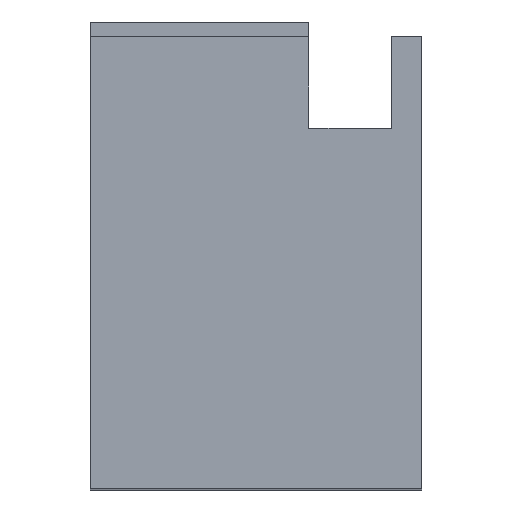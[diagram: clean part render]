
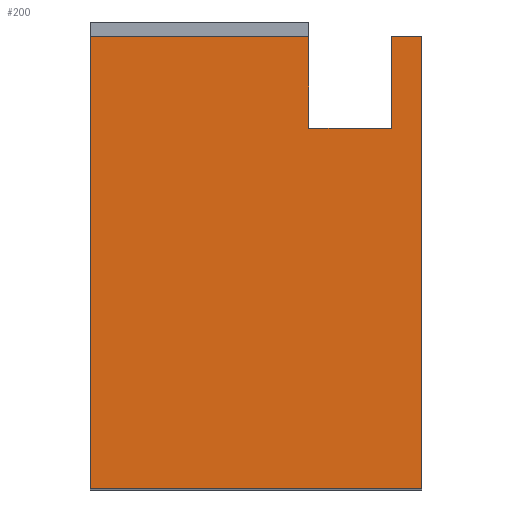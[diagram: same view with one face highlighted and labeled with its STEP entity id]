
A CAD part, top view. The second image highlights one B-rep face of the part: STEP entity #200.
In plain terms, the highlighted planar face has unit normal (0, 0, 1).
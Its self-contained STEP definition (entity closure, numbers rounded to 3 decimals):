
#141=AXIS2_PLACEMENT_3D('Plane Axis2P3D',#138,#139,#140) ;
#65=CARTESIAN_POINT('Vertex',(-13.,10.,45.5)) ;
#70=CARTESIAN_POINT('Line Origine',(-5.75,10.,45.5)) ;
#74=CARTESIAN_POINT('Vertex',(1.5,10.,45.5)) ;
#138=CARTESIAN_POINT('Axis2P3D Location',(0.,0.,45.5)) ;
#143=CARTESIAN_POINT('Line Origine',(4.25,3.9,45.5)) ;
#147=CARTESIAN_POINT('Vertex',(7.,3.9,45.5)) ;
#149=CARTESIAN_POINT('Vertex',(1.5,3.9,45.5)) ;
#152=CARTESIAN_POINT('Line Origine',(1.5,6.95,45.5)) ;
#157=CARTESIAN_POINT('Line Origine',(-13.,-5.,45.5)) ;
#161=CARTESIAN_POINT('Vertex',(-13.,-20.,45.5)) ;
#164=CARTESIAN_POINT('Line Origine',(-2.,-20.,45.5)) ;
#168=CARTESIAN_POINT('Vertex',(9.,-20.,45.5)) ;
#171=CARTESIAN_POINT('Line Origine',(9.,-5.,45.5)) ;
#175=CARTESIAN_POINT('Vertex',(9.,10.,45.5)) ;
#178=CARTESIAN_POINT('Line Origine',(8.,10.,45.5)) ;
#182=CARTESIAN_POINT('Vertex',(7.,10.,45.5)) ;
#185=CARTESIAN_POINT('Line Origine',(7.,6.95,45.5)) ;
#71=DIRECTION('Vector Direction',(1.,0.,0.)) ;
#139=DIRECTION('Axis2P3D Direction',(0.,0.,1.)) ;
#140=DIRECTION('Axis2P3D XDirection',(1.,0.,0.)) ;
#144=DIRECTION('Vector Direction',(-1.,0.,0.)) ;
#153=DIRECTION('Vector Direction',(0.,-1.,0.)) ;
#158=DIRECTION('Vector Direction',(0.,-1.,0.)) ;
#165=DIRECTION('Vector Direction',(-1.,0.,0.)) ;
#172=DIRECTION('Vector Direction',(0.,1.,0.)) ;
#179=DIRECTION('Vector Direction',(1.,0.,0.)) ;
#186=DIRECTION('Vector Direction',(0.,1.,0.)) ;
#72=VECTOR('Line Direction',#71,1.) ;
#145=VECTOR('Line Direction',#144,1.) ;
#154=VECTOR('Line Direction',#153,1.) ;
#159=VECTOR('Line Direction',#158,1.) ;
#166=VECTOR('Line Direction',#165,1.) ;
#173=VECTOR('Line Direction',#172,1.) ;
#180=VECTOR('Line Direction',#179,1.) ;
#187=VECTOR('Line Direction',#186,1.) ;
#191=ORIENTED_EDGE('',*,*,#151,.T.) ;
#192=ORIENTED_EDGE('',*,*,#156,.F.) ;
#193=ORIENTED_EDGE('',*,*,#76,.F.) ;
#194=ORIENTED_EDGE('',*,*,#163,.F.) ;
#195=ORIENTED_EDGE('',*,*,#170,.F.) ;
#196=ORIENTED_EDGE('',*,*,#177,.T.) ;
#197=ORIENTED_EDGE('',*,*,#184,.F.) ;
#198=ORIENTED_EDGE('',*,*,#189,.F.) ;
#200=ADVANCED_FACE('\X2\96F64EF651E04F554F53\X0\',(#199),#142,.T.) ;
#76=EDGE_CURVE('',#66,#75,#73,.T.) ;
#151=EDGE_CURVE('',#148,#150,#146,.T.) ;
#156=EDGE_CURVE('',#75,#150,#155,.T.) ;
#163=EDGE_CURVE('',#162,#66,#160,.F.) ;
#170=EDGE_CURVE('',#169,#162,#167,.T.) ;
#177=EDGE_CURVE('',#169,#176,#174,.T.) ;
#184=EDGE_CURVE('',#183,#176,#181,.T.) ;
#189=EDGE_CURVE('',#148,#183,#188,.T.) ;
#190=EDGE_LOOP('',(#191,#192,#193,#194,#195,#196,#197,#198)) ;
#199=FACE_OUTER_BOUND('',#190,.T.) ;
#73=LINE('Line',#70,#72) ;
#146=LINE('Line',#143,#145) ;
#155=LINE('Line',#152,#154) ;
#160=LINE('Line',#157,#159) ;
#167=LINE('Line',#164,#166) ;
#174=LINE('Line',#171,#173) ;
#181=LINE('Line',#178,#180) ;
#188=LINE('Line',#185,#187) ;
#142=PLANE('Plane',#141) ;
#66=VERTEX_POINT('',#65) ;
#75=VERTEX_POINT('',#74) ;
#148=VERTEX_POINT('',#147) ;
#150=VERTEX_POINT('',#149) ;
#162=VERTEX_POINT('',#161) ;
#169=VERTEX_POINT('',#168) ;
#176=VERTEX_POINT('',#175) ;
#183=VERTEX_POINT('',#182) ;
